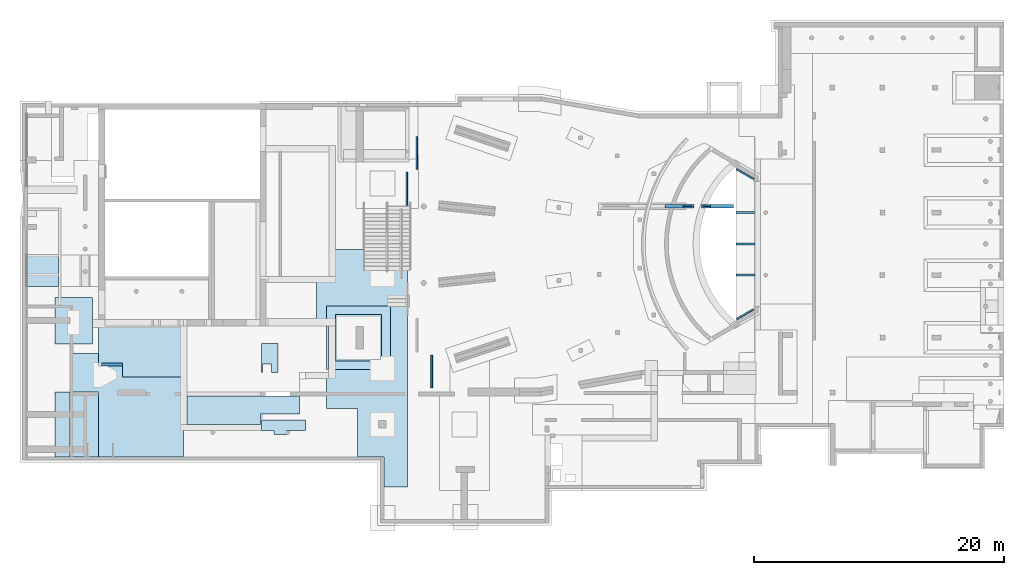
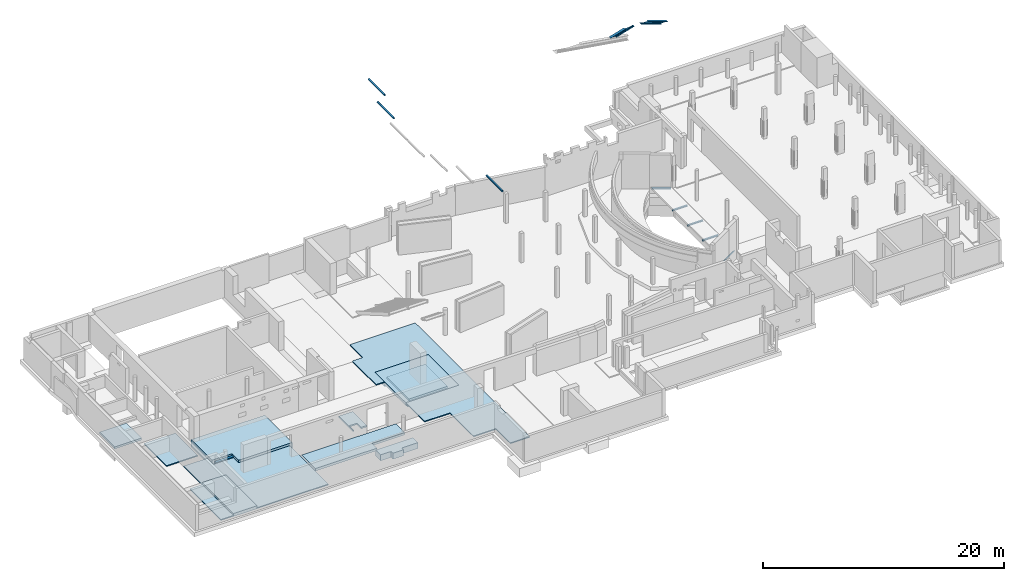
# One storey, part 28 of 42: 14 slabs, 10 beams.
"""IFC2X3 building model written with IfcOpenShell, lengths in millimetres."""

from ifc_helpers import new_model, entity, si_unit, converted_unit, derived_unit, direction, frame, frame_2d, origin, origin_2d_with_axis, place, context, subcontext, project, spatial, polyline, circle_curve, parameter, trimmed, segment, composite_curve, rectangle, i_section, outline, extrude, clip, halfspace, material, layer, layer_set, layer_usage, type_object, element, save


model = new_model("IFC2X3")

# Units and contexts
model_context = context("Model", 3, precision=0.01, world=origin(), true_north=direction((6.12303176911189e-17, 1.0)))
body_context = subcontext(model_context, "Body", "Model", "MODEL_VIEW")
ifc_project = project(units=[si_unit("LENGTHUNIT", "METRE", prefix="MILLI"), si_unit("AREAUNIT", "SQUARE_METRE", prefix="MILLI"), si_unit("VOLUMEUNIT", "CUBIC_METRE"), converted_unit("PLANEANGLEUNIT", "DEGREE", entity("IfcRatioMeasure", 0.0174532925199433), si_unit("PLANEANGLEUNIT", "RADIAN"), dimensions=[0, 0, 0, 0, 0, 0, 0]), si_unit("MASSUNIT", "GRAM", prefix="KILO"), derived_unit("MASSDENSITYUNIT", [(si_unit("MASSUNIT", "GRAM", prefix="KILO"), 1), (si_unit("LENGTHUNIT", "METRE"), -3)]), derived_unit("MOMENTOFINERTIAUNIT", [(si_unit("LENGTHUNIT", "METRE"), 4)]), si_unit("TIMEUNIT", "SECOND"), si_unit("FREQUENCYUNIT", "HERTZ"), si_unit("THERMODYNAMICTEMPERATUREUNIT", "DEGREE_CELSIUS"), derived_unit("THERMALTRANSMITTANCEUNIT", [(si_unit("MASSUNIT", "GRAM", prefix="KILO"), 1), (si_unit("THERMODYNAMICTEMPERATUREUNIT", "KELVIN"), -1), (si_unit("TIMEUNIT", "SECOND"), -3)]), derived_unit("VOLUMETRICFLOWRATEUNIT", [(si_unit("LENGTHUNIT", "METRE"), 3), (si_unit("TIMEUNIT", "SECOND"), -1)]), si_unit("ELECTRICCURRENTUNIT", "AMPERE"), si_unit("ELECTRICVOLTAGEUNIT", "VOLT"), si_unit("POWERUNIT", "WATT"), si_unit("FORCEUNIT", "NEWTON", prefix="KILO"), si_unit("ILLUMINANCEUNIT", "LUX"), si_unit("LUMINOUSFLUXUNIT", "LUMEN"), si_unit("LUMINOUSINTENSITYUNIT", "CANDELA"), derived_unit("USERDEFINED", [(si_unit("MASSUNIT", "GRAM", prefix="KILO"), -1), (si_unit("LENGTHUNIT", "METRE"), -2), (si_unit("TIMEUNIT", "SECOND"), 3), (si_unit("LUMINOUSFLUXUNIT", "LUMEN"), 1)]), derived_unit("LINEARVELOCITYUNIT", [(si_unit("LENGTHUNIT", "METRE"), 1), (si_unit("TIMEUNIT", "SECOND"), -1)]), si_unit("PRESSUREUNIT", "PASCAL"), derived_unit("USERDEFINED", [(si_unit("LENGTHUNIT", "METRE"), -2), (si_unit("MASSUNIT", "GRAM", prefix="KILO"), 1), (si_unit("TIMEUNIT", "SECOND"), -2)]), derived_unit("LINEARFORCEUNIT", [(si_unit("MASSUNIT", "GRAM", prefix="KILO"), 1), (si_unit("LENGTHUNIT", "METRE"), 1), (si_unit("TIMEUNIT", "SECOND"), -2), (si_unit("LENGTHUNIT", "METRE"), -1)]), derived_unit("PLANARFORCEUNIT", [(si_unit("MASSUNIT", "GRAM", prefix="KILO"), 1), (si_unit("LENGTHUNIT", "METRE"), 1), (si_unit("TIMEUNIT", "SECOND"), -2), (si_unit("LENGTHUNIT", "METRE"), -2)])], contexts=[model_context])

# Site, building, storey
site_placement = place(None, origin())
site = spatial("IfcSite", under=ifc_project, at=site_placement, Name="Theater aan de Parade", CompositionType="ELEMENT")
building_placement = place(site_placement, origin())
building = spatial("IfcBuilding", under=site, at=building_placement, Name="Theater aan de Parade", CompositionType="ELEMENT")
storey_placement = place(building_placement, frame((0.0, 0.0, -3300.0)))
storey = spatial("IfcBuildingStorey", under=building, at=storey_placement, Name="-1 kelder", CompositionType="ELEMENT", Elevation=-3300.0)

# Beams
ifc_material_1 = material(Name="00_PBT_MAT_staal_S355")
beam_type_1 = type_object("IfcBeamType", Name="28_PBT_SF_staal_H-profiel:S355_HE140A", PredefinedType="NOTDEFINED")
beam_1_placement = place(storey_placement, frame((67250.0, 34970.0, 0.0)))
element("IfcBeam", 1, at=beam_1_placement, inside=storey, type_object=beam_type_1, material=ifc_material_1, Name="28_PBT_SF_staal_H-profiel:S355_HE140A", ObjectType="28_PBT_SF_staal_H-profiel:S355_HE140A", context=body_context, shape_type="SweptSolid", body=[
    extrude(i_section(OverallWidth=140.000000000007, OverallDepth=133.0, WebThickness=5.4999999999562, FlangeThickness=8.49999999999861, FilletRadius=12.000000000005, at=frame_2d((-8.10018718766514e-13, -6.49436060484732e-12), x_axis=(0.0, 1.0))), frame((0.0, 0.0, 443.499999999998), z_axis=(1.0, 0.0, 0.0), x_axis=(0.0, 0.0, -1.0)), (0.0, 0.0, 1.0), 1470.0000000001),
])
beam_2_placement = place(storey_placement, frame((67250.0, 32453.0, 0.0)))
element("IfcBeam", 2, at=beam_2_placement, inside=storey, type_object=beam_type_1, material=ifc_material_1, Name="28_PBT_SF_staal_H-profiel:S355_HE140A", ObjectType="28_PBT_SF_staal_H-profiel:S355_HE140A", context=body_context, shape_type="SweptSolid", body=[
    extrude(i_section(OverallWidth=140.000000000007, OverallDepth=133.0, WebThickness=5.4999999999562, FlangeThickness=8.49999999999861, FilletRadius=12.000000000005, at=frame_2d((-2.70006239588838e-13, -2.16715534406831e-12), x_axis=(0.0, 1.0))), frame((0.0, 0.0, 443.499999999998), z_axis=(1.0, 0.0, 0.0), x_axis=(0.0, 0.0, -1.0)), (0.0, 0.0, 1.0), 1510.00000000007),
])
beam_3_placement = place(storey_placement, frame((67250.0, 29970.0, 0.0)))
element("IfcBeam", 3, at=beam_3_placement, inside=storey, type_object=beam_type_1, material=ifc_material_1, Name="28_PBT_SF_staal_H-profiel:S355_HE140A", ObjectType="28_PBT_SF_staal_H-profiel:S355_HE140A", context=body_context, shape_type="SweptSolid", body=[
    extrude(i_section(OverallWidth=140.000000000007, OverallDepth=133.0, WebThickness=5.4999999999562, FlangeThickness=8.49999999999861, FilletRadius=12.000000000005, at=frame_2d((-2.70006239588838e-13, 6.49436060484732e-12), x_axis=(0.0, 1.0))), frame((0.0, 0.0, 443.499999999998), z_axis=(1.0, 0.0, 0.0), x_axis=(0.0, 0.0, -1.0)), (0.0, 0.0, 1.0), 1510.00000000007),
])
beam_type_2 = type_object("IfcBeamType", Name="28_PBT_SF_staal_L-profiel:S355_L150x150x15", PredefinedType="NOTDEFINED")
beam_4_placement = place(storey_placement, frame((67305.6569568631, 38476.8504600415, 0.0), z_axis=(0.0, 0.0, 1.0), x_axis=(0.866064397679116, -0.499932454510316, 0.0)))
element("IfcBeam", 4, at=beam_4_placement, inside=storey, type_object=beam_type_2, material=ifc_material_1, Name="28_PBT_SF_staal_L-profiel:S355_L150x150x15", ObjectType="28_PBT_SF_staal_L-profiel:S355_L150x150x15", context=body_context, shape_type="SweptSolid", body=[
    extrude(outline(composite_curve([segment(polyline([(49.6666666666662, -93.3333333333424), (56.6666666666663, -93.3333333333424)]), True, "CONTINUOUS"), segment(polyline([(56.6666666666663, -93.3333333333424), (56.6666666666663, 56.6666666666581)]), True, "CONTINUOUS"), segment(polyline([(56.6666666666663, 56.6666666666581), (-93.3333333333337, 56.6666666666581)]), True, "CONTINUOUS"), segment(polyline([(-93.3333333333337, 56.6666666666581), (-93.3333333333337, 49.6666666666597)]), True, "CONTINUOUS"), segment(trimmed(circle_curve(frame_2d((-85.3333333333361, 49.6666666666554), x_axis=(-1.0, 0.0)), 7.99999999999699), [parameter(0.0)], [parameter(90.0000000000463)], True, "PARAMETER"), True, "CONTINUOUS"), segment(polyline([(-85.3333333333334, 41.6666666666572), (25.6666666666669, 41.6666666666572)]), True, "CONTINUOUS"), segment(trimmed(circle_curve(frame_2d((25.6666666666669, 25.6666666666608), x_axis=(0.0, 1.0)), 15.9999999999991), [parameter(269.999999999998)], [parameter(0.0)], True, "PARAMETER"), False, "CONTINUOUS"), segment(polyline([(41.6666666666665, 25.6666666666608), (41.6666666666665, -85.3333333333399)]), True, "CONTINUOUS"), segment(trimmed(circle_curve(frame_2d((49.666666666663, -85.3333333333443), x_axis=(-1.0, 0.0)), 7.99999999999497), [parameter(0.0)], [parameter(90.0000000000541)], True, "PARAMETER"), True, "CONTINUOUS")], self_intersect=False)), frame((0.0, -14.1666666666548, 551.666666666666), z_axis=(1.0, 0.0, 0.0), x_axis=(0.0, 0.0, -1.0)), (0.0, 0.0, 1.0), 1600.0),
])
beam_5_placement = place(storey_placement, frame((67305.6563718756, 26413.1492022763, 0.0), z_axis=(0.0, 0.0, 1.0), x_axis=(0.866064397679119, 0.499932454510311, 0.0)))
element("IfcBeam", 5, at=beam_5_placement, inside=storey, type_object=beam_type_2, material=ifc_material_1, Name="28_PBT_SF_staal_L-profiel:S355_L150x150x15", ObjectType="28_PBT_SF_staal_L-profiel:S355_L150x150x15", context=body_context, shape_type="SweptSolid", body=[
    extrude(outline(composite_curve([segment(polyline([(-93.3333333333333, -56.6666666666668), (56.6666666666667, -56.6666666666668)]), True, "CONTINUOUS"), segment(polyline([(56.6666666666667, -56.6666666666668), (56.6666666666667, 93.3333333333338)]), True, "CONTINUOUS"), segment(polyline([(56.6666666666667, 93.3333333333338), (49.6666666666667, 93.3333333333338)]), True, "CONTINUOUS"), segment(trimmed(circle_curve(frame_2d((49.6666666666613, 85.3333333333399), x_axis=(0.0, 1.0)), 7.99999999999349), [parameter(0.0)], [parameter(90.0000000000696)], True, "PARAMETER"), True, "CONTINUOUS"), segment(polyline([(41.6666666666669, 85.3333333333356), (41.6666666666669, -25.6666666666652)]), True, "CONTINUOUS"), segment(trimmed(circle_curve(frame_2d((25.6666666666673, -25.6666666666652), x_axis=(1.0, 0.0)), 15.9999999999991), [parameter(269.999999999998)], [parameter(0.0)], True, "PARAMETER"), False, "CONTINUOUS"), segment(polyline([(25.6666666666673, -41.6666666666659), (-85.3333333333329, -41.6666666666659)]), True, "CONTINUOUS"), segment(trimmed(circle_curve(frame_2d((-85.3333333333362, -49.6666666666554), x_axis=(0.0, 1.0)), 7.99999999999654), [parameter(0.0)], [parameter(90.0000000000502)], True, "PARAMETER"), True, "CONTINUOUS"), segment(polyline([(-93.3333333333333, -49.6666666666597), (-93.3333333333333, -56.6666666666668)]), True, "CONTINUOUS")], self_intersect=False)), frame((0.0, 14.1666666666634, 551.666666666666), z_axis=(1.0, 0.0, 0.0), x_axis=(0.0, 0.0, -1.0)), (0.0, 0.0, 1.0), 1605.0),
])
beam_type_3 = type_object("IfcBeamType", Name="28_PBT_SF_staal_H-profiel:S355_HE260B", PredefinedType="NOTDEFINED")
beam_6_placement = place(storey_placement, frame((61504.062976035, 35472.499995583, 19459.7455469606), z_axis=(-0.280842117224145, 0.0, 0.959753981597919), x_axis=(0.959753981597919, 0.0, 0.280842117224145)))
element("IfcBeam", 6, at=beam_6_placement, inside=storey, type_object=beam_type_3, material=ifc_material_1, Name="28_PBT_SF_staal_H-profiel:S355_HE260B", ObjectType="28_PBT_SF_staal_H-profiel:S355_HE260B", context=body_context, shape_type="Clipping", body=[
    clip(clip(extrude(i_section(OverallWidth=260.000000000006, OverallDepth=259.999999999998, WebThickness=10.0000000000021, FlangeThickness=17.499999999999, FilletRadius=23.9999999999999, at=frame_2d((-2.07478478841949e-12, -6.49436060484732e-12), x_axis=(0.0, 1.0))), frame((99.8063754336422, 0.0, 0.0), z_axis=(1.0, 0.0, 0.0), x_axis=(0.0, 0.0, -1.0)), (0.0, 0.0, 1.0), 2339.36648588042), halfspace(frame((-4713.81573917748, -170.0, 2406.46514513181), z_axis=(-0.427523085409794, 0.0, -0.90400443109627), x_axis=(0.90400443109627, 0.0, -0.427523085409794)), False)), halfspace(frame((-4862.8308060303, 170.0, 2006.70399835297), z_axis=(0.280842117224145, 0.0, 0.959753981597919), x_axis=(0.959753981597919, 0.0, -0.280842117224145)), False)),
])
beam_7_placement = place(storey_placement, frame((64328.2377806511, 35472.499995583, 20213.715076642), z_axis=(0.332948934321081, 0.0, 0.942944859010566), x_axis=(0.942944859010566, 0.0, -0.332948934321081)))
element("IfcBeam", 7, at=beam_7_placement, inside=storey, type_object=beam_type_3, material=ifc_material_1, Name="28_PBT_SF_staal_H-profiel:S355_HE260B", ObjectType="28_PBT_SF_staal_H-profiel:S355_HE260B", context=body_context, shape_type="Clipping", body=[
    clip(clip(clip(extrude(i_section(OverallWidth=260.000000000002, OverallDepth=259.999999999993, WebThickness=10.0000000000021, FlangeThickness=17.5000000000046, FilletRadius=24.0000000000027, at=frame_2d((-1.02318153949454e-12, 1.51629819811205e-11), x_axis=(0.0, 1.0))), frame((213.64310751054, 0.0, 0.0), z_axis=(1.0, 0.0, 0.0), x_axis=(0.0, 0.0, -1.0)), (0.0, 0.0, 1.0), 2644.91552228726), halfspace(frame((-427.447160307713, -170.0, -1077.51067672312), z_axis=(0.332948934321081, 0.0, -0.942944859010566), x_axis=(0.942944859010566, 0.0, 0.332948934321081)), False)), halfspace(frame((2871.87658717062, -150.0, 45.0431137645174), z_axis=(0.942944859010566, 0.0, 0.332948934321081), x_axis=(-0.332948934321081, 0.0, 0.942944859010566)), False)), halfspace(frame((-7530.7944578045, 170.0, -2864.52069826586), z_axis=(-0.332948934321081, 0.0, 0.942944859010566), x_axis=(0.942944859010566, 0.0, 0.332948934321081)), False)),
])
beam_type_4 = type_object("IfcBeamType", Name="28_PBT_SF_staal_koker:S355_K200x200x10", PredefinedType="NOTDEFINED")
beam_8_placement = place(storey_placement, frame((42810.3707616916, 23578.9366326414, 19698.01665294), z_axis=(0.0, 0.0, 1.0), x_axis=(0.0, -1.0, 0.0)))
element("IfcBeam", 8, at=beam_8_placement, inside=storey, type_object=beam_type_4, material=ifc_material_1, Name="28_PBT_SF_staal_koker:S355_K200x200x10", ObjectType="28_PBT_SF_staal_koker:S355_K200x200x10", context=body_context, shape_type="SweptSolid", body=[
    extrude(outline(composite_curve([segment(polyline([(-60.0, -75.0), (60.0, -75.0)]), True, "CONTINUOUS"), segment(trimmed(circle_curve(frame_2d((60.0, -60.0), x_axis=(0.0, 1.0)), 15.0), [parameter(180.0)], [parameter(270.0)], True, "PARAMETER"), True, "CONTINUOUS"), segment(polyline([(75.0, -60.0), (75.0, 60.0)]), True, "CONTINUOUS"), segment(trimmed(circle_curve(frame_2d((60.0, 60.0), x_axis=(0.0, 1.0)), 15.0), [parameter(270.0)], [parameter(360.0)], True, "PARAMETER"), True, "CONTINUOUS"), segment(polyline([(60.0, 75.0), (-60.0, 75.0)]), True, "CONTINUOUS"), segment(trimmed(circle_curve(frame_2d((-60.0, 60.0), x_axis=(0.0, 1.0)), 15.0), [parameter(0.0)], [parameter(90.0000000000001)], True, "PARAMETER"), True, "CONTINUOUS"), segment(polyline([(-75.0, 60.0), (-75.0, -60.0)]), True, "CONTINUOUS"), segment(trimmed(circle_curve(frame_2d((-60.0, -60.0), x_axis=(0.0, 1.0)), 15.0), [parameter(90.0)], [parameter(180.0)], True, "PARAMETER"), True, "CONTINUOUS")], self_intersect=False), holes=[composite_curve([segment(polyline([(65.0, 55.0), (65.0, -55.0)]), True, "CONTINUOUS"), segment(trimmed(circle_curve(frame_2d((55.0, -55.0), x_axis=(0.0, 1.0)), 10.0), [parameter(180.0)], [parameter(270.0)], True, "PARAMETER"), False, "CONTINUOUS"), segment(polyline([(55.0, -65.0), (-55.0, -65.0)]), True, "CONTINUOUS"), segment(trimmed(circle_curve(frame_2d((-55.0, -55.0), x_axis=(0.0, 1.0)), 10.0), [parameter(90.0)], [parameter(180.0)], True, "PARAMETER"), False, "CONTINUOUS"), segment(polyline([(-65.0, -55.0), (-65.0, 55.0)]), True, "CONTINUOUS"), segment(trimmed(circle_curve(frame_2d((-55.0, 55.0), x_axis=(0.0, 1.0)), 10.0), [parameter(4.07110999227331e-13)], [parameter(90.0000000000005)], True, "PARAMETER"), False, "CONTINUOUS"), segment(polyline([(-55.0, 65.0), (55.0, 65.0)]), True, "CONTINUOUS"), segment(trimmed(circle_curve(frame_2d((55.0, 55.0), x_axis=(0.0, 1.0)), 10.0), [parameter(270.0)], [parameter(0.0)], True, "PARAMETER"), False, "CONTINUOUS")], self_intersect=False)]), frame((0.0, 108.975369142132, -279.50736827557), z_axis=(1.0, 0.0, 0.0), x_axis=(0.0, -0.363251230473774, 0.931691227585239)), (0.0, 0.0, 1.0), 2648.93663264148),
])
beam_9_placement = place(storey_placement, frame((40830.526903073, 35519.5120085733, 18926.1077881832), z_axis=(0.0, 0.0, 1.0), x_axis=(0.0, 1.0, 0.0)))
element("IfcBeam", 9, at=beam_9_placement, inside=storey, type_object=beam_type_4, material=ifc_material_1, Name="28_PBT_SF_staal_koker:S355_K200x200x10", ObjectType="28_PBT_SF_staal_koker:S355_K200x200x10", context=body_context, shape_type="SweptSolid", body=[
    extrude(outline(composite_curve([segment(trimmed(circle_curve(frame_2d((-60.0, -60.0), x_axis=(1.0, 0.0)), 15.0), [parameter(180.0)], [parameter(270.0)], True, "PARAMETER"), True, "CONTINUOUS"), segment(polyline([(-60.0, -75.0), (60.0, -75.0)]), True, "CONTINUOUS"), segment(trimmed(circle_curve(frame_2d((60.0, -60.0), x_axis=(1.0, 0.0)), 15.0), [parameter(270.0)], [parameter(0.0)], True, "PARAMETER"), True, "CONTINUOUS"), segment(polyline([(75.0, -60.0), (75.0, 60.0)]), True, "CONTINUOUS"), segment(trimmed(circle_curve(frame_2d((60.0, 60.0), x_axis=(1.0, 0.0)), 15.0), [parameter(3.56222124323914e-13)], [parameter(90.0000000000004)], True, "PARAMETER"), True, "CONTINUOUS"), segment(polyline([(60.0, 75.0), (-60.0, 75.0)]), True, "CONTINUOUS"), segment(trimmed(circle_curve(frame_2d((-60.0, 60.0), x_axis=(1.0, 0.0)), 15.0), [parameter(90.0)], [parameter(180.0)], True, "PARAMETER"), True, "CONTINUOUS"), segment(polyline([(-75.0, 60.0), (-75.0, -60.0)]), True, "CONTINUOUS")], self_intersect=False), holes=[composite_curve([segment(trimmed(circle_curve(frame_2d((55.0, 55.0), x_axis=(1.0, 0.0)), 10.0), [parameter(0.0)], [parameter(90.0000000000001)], True, "PARAMETER"), False, "CONTINUOUS"), segment(polyline([(65.0, 55.0), (65.0, -55.0)]), True, "CONTINUOUS"), segment(trimmed(circle_curve(frame_2d((55.0, -55.0), x_axis=(1.0, 0.0)), 10.0), [parameter(269.999999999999)], [parameter(360.0)], True, "PARAMETER"), False, "CONTINUOUS"), segment(polyline([(55.0, -65.0), (-55.0, -65.0)]), True, "CONTINUOUS"), segment(trimmed(circle_curve(frame_2d((-55.0, -55.0), x_axis=(1.0, 0.0)), 10.0), [parameter(180.0)], [parameter(270.0)], True, "PARAMETER"), False, "CONTINUOUS"), segment(polyline([(-65.0, -55.0), (-65.0, 55.0)]), True, "CONTINUOUS"), segment(trimmed(circle_curve(frame_2d((-55.0, 55.0), x_axis=(1.0, 0.0)), 10.0), [parameter(89.9999999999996)], [parameter(180.0)], True, "PARAMETER"), False, "CONTINUOUS"), segment(polyline([(-55.0, 65.0), (55.0, 65.0)]), True, "CONTINUOUS")], self_intersect=False)]), frame((0.0, -108.975369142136, -279.507368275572), z_axis=(1.0, 0.0, 0.0), x_axis=(0.0, 0.931691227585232, -0.363251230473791)), (0.0, 0.0, 1.0), 2706.24999999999),
])
beam_10_placement = place(storey_placement, frame((41631.7813587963, 38405.7620085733, 19238.5038463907), z_axis=(0.0, 0.0, 1.0), x_axis=(0.0, 1.0, 0.0)))
element("IfcBeam", 10, at=beam_10_placement, inside=storey, type_object=beam_type_4, material=ifc_material_1, Name="28_PBT_SF_staal_koker:S355_K200x200x10", ObjectType="28_PBT_SF_staal_koker:S355_K200x200x10", context=body_context, shape_type="SweptSolid", body=[
    extrude(outline(composite_curve([segment(trimmed(circle_curve(frame_2d((-60.0, -60.0), x_axis=(1.0, 0.0)), 15.0), [parameter(180.0)], [parameter(270.0)], True, "PARAMETER"), True, "CONTINUOUS"), segment(polyline([(-60.0, -75.0), (60.0, -75.0)]), True, "CONTINUOUS"), segment(trimmed(circle_curve(frame_2d((60.0, -60.0), x_axis=(1.0, 0.0)), 15.0), [parameter(270.0)], [parameter(0.0)], True, "PARAMETER"), True, "CONTINUOUS"), segment(polyline([(75.0, -60.0), (75.0, 60.0)]), True, "CONTINUOUS"), segment(trimmed(circle_curve(frame_2d((60.0, 60.0), x_axis=(1.0, 0.0)), 15.0), [parameter(3.56222124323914e-13)], [parameter(90.0000000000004)], True, "PARAMETER"), True, "CONTINUOUS"), segment(polyline([(60.0, 75.0), (-60.0, 75.0)]), True, "CONTINUOUS"), segment(trimmed(circle_curve(frame_2d((-60.0, 60.0), x_axis=(1.0, 0.0)), 15.0), [parameter(90.0)], [parameter(180.0)], True, "PARAMETER"), True, "CONTINUOUS"), segment(polyline([(-75.0, 60.0), (-75.0, -60.0)]), True, "CONTINUOUS")], self_intersect=False), holes=[composite_curve([segment(trimmed(circle_curve(frame_2d((55.0, 55.0), x_axis=(1.0, 0.0)), 10.0), [parameter(0.0)], [parameter(90.0000000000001)], True, "PARAMETER"), False, "CONTINUOUS"), segment(polyline([(65.0, 55.0), (65.0, -55.0)]), True, "CONTINUOUS"), segment(trimmed(circle_curve(frame_2d((55.0, -55.0), x_axis=(1.0, 0.0)), 10.0), [parameter(269.999999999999)], [parameter(360.0)], True, "PARAMETER"), False, "CONTINUOUS"), segment(polyline([(55.0, -65.0), (-55.0, -65.0)]), True, "CONTINUOUS"), segment(trimmed(circle_curve(frame_2d((-55.0, -55.0), x_axis=(1.0, 0.0)), 10.0), [parameter(180.0)], [parameter(270.0)], True, "PARAMETER"), False, "CONTINUOUS"), segment(polyline([(-65.0, -55.0), (-65.0, 55.0)]), True, "CONTINUOUS"), segment(trimmed(circle_curve(frame_2d((-55.0, 55.0), x_axis=(1.0, 0.0)), 10.0), [parameter(89.9999999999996)], [parameter(180.0)], True, "PARAMETER"), False, "CONTINUOUS"), segment(polyline([(-55.0, 65.0), (55.0, 65.0)]), True, "CONTINUOUS")], self_intersect=False)]), frame((0.0, -108.975369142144, -279.50736827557), z_axis=(1.0, 0.0, 0.0), x_axis=(0.0, 0.931691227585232, -0.363251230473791)), (0.0, 0.0, 1.0), 2662.80135878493),
])

# Slabs
ifc_material_2 = material(Name="00_PBT_MAT_beton t.p.g.")
ifc_layer_1 = layer(ifc_material_2, 1000.0)
ifc_layer_set_1 = layer_set([ifc_layer_1], Name="Foundation Slab:13_PBT_FS_beton t.p.g._d=1000_bestaand")
ifc_layer_usage_1 = layer_usage(ifc_layer_set_1, "AXIS3", "POSITIVE", 0.0)
slab_type_1 = type_object("IfcSlabType", Name="Foundation Slab:13_PBT_FS_beton t.p.g._d=1000_bestaand", PredefinedType="BASESLAB", material=ifc_layer_set_1)
slab_1_placement = place(storey_placement, origin())
element("IfcSlab", 11, at=slab_1_placement, inside=storey, type_object=slab_type_1, material=ifc_layer_usage_1, Name="Foundation Slab:13_PBT_FS_beton t.p.g._d=1000_bestaand", ObjectType="Foundation Slab:13_PBT_FS_beton t.p.g._d=1000_bestaand", PredefinedType="BASESLAB", context=body_context, shape_type="SweptSolid", body=[
    extrude(outline(polyline([(-187.499999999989, -2229.0), (637.499999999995, -2229.0), (637.499999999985, 1266.0), (637.499999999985, 1321.0), (-187.499999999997, 1321.0), (-187.499999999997, 1266.0), (-187.499999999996, 321.0), (-487.499999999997, 321.0), (-487.499999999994, -679.0), (-187.499999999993, -679.0), (-187.499999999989, -2229.0)])), frame((30611.0, 17727.4999999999, -1040.0), z_axis=(0.0, 0.0, 1.0), x_axis=(0.0, 1.0, 0.0)), (0.0, 0.0, 1.0), 600.0),
])
ifc_layer_2 = layer(ifc_material_2, 150.0)
ifc_layer_set_2 = layer_set([ifc_layer_2], Name="Floor:28_PBT_FL_beton t.p.g._d=150_bestaand")
ifc_layer_usage_2 = layer_usage(ifc_layer_set_2, "AXIS3", "POSITIVE", 0.0)
slab_type_2 = type_object("IfcSlabType", Name="Floor:28_PBT_FL_beton t.p.g._d=150_bestaand", PredefinedType="FLOOR", material=ifc_layer_set_2)
slab_2_placement = place(storey_placement, origin())
element("IfcSlab", 12, at=slab_2_placement, inside=storey, type_object=slab_type_2, material=ifc_layer_usage_2, Name="Floor:28_PBT_FL_beton t.p.g._d=150_bestaand", ObjectType="Floor:28_PBT_FL_beton t.p.g._d=150_bestaand", PredefinedType="FLOOR", context=body_context, shape_type="SweptSolid", body=[
    extrude(outline(polyline([(-758.750000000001, -562.500000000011), (1576.25, -562.500000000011), (1576.25, 787.499999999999), (-758.750000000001, 787.499999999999), (-758.750000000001, 237.499999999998), (-58.7499999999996, 237.499999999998), (-58.7499999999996, -462.500000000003), (-758.750000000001, -462.500000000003), (-758.750000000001, -562.500000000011)])), frame((29852.5, 22923.7499999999, -740.0), z_axis=(0.0, 0.0, -1.0), x_axis=(0.0, 1.0, 0.0)), (0.0, 0.0, 1.0), 150.0),
])
ifc_layer_3 = layer(ifc_material_2, 740.0)
ifc_layer_set_3 = layer_set([ifc_layer_3], Name="Foundation Slab:13_PBT_FS_beton t.p.g._d=740_bestaand")
ifc_layer_usage_3 = layer_usage(ifc_layer_set_3, "AXIS3", "POSITIVE", 0.0)
slab_type_3 = type_object("IfcSlabType", Name="Foundation Slab:13_PBT_FS_beton t.p.g._d=740_bestaand", PredefinedType="BASESLAB", material=ifc_layer_set_3)
slab_3_placement = place(storey_placement, origin())
element("IfcSlab", 13, at=slab_3_placement, inside=storey, type_object=slab_type_3, material=ifc_layer_usage_3, Name="Foundation Slab:13_PBT_FS_beton t.p.g._d=740_bestaand", ObjectType="Foundation Slab:13_PBT_FS_beton t.p.g._d=740_bestaand", PredefinedType="BASESLAB", context=body_context, shape_type="SweptSolid", body=[
    extrude(outline(polyline([(-790.0, -2985.0), (2680.0, -2985.0), (2680.0, 4065.0), (-1890.0, 4065.0), (-1890.0, -1080.0), (-790.0, -1080.0), (-790.0, -2985.0)])), frame((19260.0, 23730.0, 300.0), z_axis=(0.0, 0.0, -1.0), x_axis=(0.0, 1.0, 0.0)), (0.0, 0.0, 1.0), 740.0),
])
ifc_layer_4 = layer(ifc_material_2, 570.0)
ifc_layer_set_4 = layer_set([ifc_layer_4], Name="Foundation Slab:13_PBT_FS_beton t.p.g._d=570_bestaand")
ifc_layer_usage_4 = layer_usage(ifc_layer_set_4, "AXIS3", "POSITIVE", 0.0)
slab_type_4 = type_object("IfcSlabType", Name="Foundation Slab:13_PBT_FS_beton t.p.g._d=570_bestaand", PredefinedType="BASESLAB", material=ifc_layer_set_4)
slab_4_placement = place(storey_placement, origin())
element("IfcSlab", 14, at=slab_4_placement, inside=storey, type_object=slab_type_4, material=ifc_layer_usage_4, Name="Foundation Slab:13_PBT_FS_beton t.p.g._d=570_bestaand", ObjectType="Foundation Slab:13_PBT_FS_beton t.p.g._d=570_bestaand", PredefinedType="BASESLAB", context=body_context, shape_type="SweptSolid", body=[
    extrude(rectangle(XDim=250.000000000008, YDim=1655.00000000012, at=frame_2d((2.16715534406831e-12, 0.0), x_axis=(1.0, 0.0))), frame((17352.5, 22815.0, 130.0), z_axis=(0.0, 0.0, -1.0), x_axis=(0.0, 1.0, 0.0)), (0.0, 0.0, 1.0), 570.0),
])
ifc_material_3 = material(Name="00_PBT_MAT_beton t.p.g._C30/37")
ifc_layer_5 = layer(ifc_material_3, 250.0)
ifc_layer_set_5 = layer_set([ifc_layer_5], Name="Floor:28_PBT_FL_beton t.p.g._d=250_C30/37_uitvulling n.t.b.")
ifc_layer_usage_5 = layer_usage(ifc_layer_set_5, "AXIS3", "POSITIVE", 0.0)
slab_type_5 = type_object("IfcSlabType", Name="Floor:28_PBT_FL_beton t.p.g._d=250_C30/37_uitvulling n.t.b.", PredefinedType="FLOOR", material=ifc_layer_set_5)
slab_5_placement = place(storey_placement, origin())
element("IfcSlab", 15, at=slab_5_placement, inside=storey, type_object=slab_type_5, material=ifc_layer_usage_5, Name="Floor:28_PBT_FL_beton t.p.g._d=250_C30/37_uitvulling n.t.b.", ObjectType="Floor:28_PBT_FL_beton t.p.g._d=250_C30/37_uitvulling n.t.b.", PredefinedType="FLOOR", context=body_context, shape_type="SweptSolid", body=[
    extrude(outline(polyline([(-1032.12248433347, -4976.66666666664), (1239.24496866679, -4976.66666666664), (1239.24496866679, 4038.33333333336), (-207.122484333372, 4038.33333333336), (-207.122484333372, 938.333333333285), (-1032.12248433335, 938.333333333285), (-1032.12248433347, -4976.66666666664)])), frame((28301.6666666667, 19072.1224843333, -40.0), z_axis=(0.0, 0.0, -1.0), x_axis=(0.0, 1.0, 0.0)), (0.0, 0.0, 1.0), 250.0),
])
ifc_layer_6 = layer(ifc_material_3, 200.0)
ifc_layer_set_6 = layer_set([ifc_layer_6], Name="Floor:28_PBT_FL_beton t.p.g._d=200_C30/37_uitvulling n.t.b.")
ifc_layer_usage_6 = layer_usage(ifc_layer_set_6, "AXIS3", "POSITIVE", 0.0)
slab_type_6 = type_object("IfcSlabType", Name="Floor:28_PBT_FL_beton t.p.g._d=200_C30/37_uitvulling n.t.b.", PredefinedType="FLOOR", material=ifc_layer_set_6)
slab_6_placement = place(storey_placement, origin())
element("IfcSlab", 16, at=slab_6_placement, inside=storey, type_object=slab_type_6, material=ifc_layer_usage_6, Name="Floor:28_PBT_FL_beton t.p.g._d=200_C30/37_uitvulling n.t.b.", ObjectType="Floor:28_PBT_FL_beton t.p.g._d=200_C30/37_uitvulling n.t.b.", PredefinedType="FLOOR", context=body_context, shape_type="SweptSolid", body=[
    extrude(rectangle(XDim=2499.99999999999, YDim=2575.00000000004, at=frame_2d((0.0, 1.13686837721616e-12), x_axis=(1.0, 0.0))), frame((11777.5000000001, 30315.0, -40.0), z_axis=(0.0, 0.0, -1.0), x_axis=(0.0, 1.0, 0.0)), (0.0, 0.0, 1.0), 200.0),
])
ifc_layer_7 = layer(ifc_material_3, 200.0)
ifc_layer_set_7 = layer_set([ifc_layer_7], Name="Foundation Slab:13_PBT_FS_beton t.p.g._d=200_C30/37")
ifc_layer_usage_7 = layer_usage(ifc_layer_set_7, "AXIS3", "POSITIVE", 0.0)
slab_type_7 = type_object("IfcSlabType", Name="Foundation Slab:13_PBT_FS_beton t.p.g._d=200_C30/37", PredefinedType="BASESLAB", material=ifc_layer_set_7)
slab_7_placement = place(storey_placement, origin())
element("IfcSlab", 17, at=slab_7_placement, inside=storey, type_object=slab_type_7, material=ifc_layer_usage_7, Name="Foundation Slab:13_PBT_FS_beton t.p.g._d=200_C30/37", ObjectType="Foundation Slab:13_PBT_FS_beton t.p.g._d=200_C30/37", PredefinedType="BASESLAB", context=body_context, shape_type="SweptSolid", body=[
    extrude(rectangle(XDim=3699.99999999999, YDim=3698.85813008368, at=frame_2d((-2.1600499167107e-12, 2.1600499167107e-12), x_axis=(1.0, 0.0))), frame((37054.4290650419, 24962.3674033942, -240.0), z_axis=(0.0, 0.0, -1.0), x_axis=(0.0, 1.0, 0.0)), (0.0, 0.0, 1.0), 200.0),
])
ifc_layer_8 = layer(ifc_material_3, 300.0)
ifc_layer_set_8 = layer_set([ifc_layer_8], Name="Foundation Slab:13_PBT_FS_beton t.p.g._d=300_C30/37")
ifc_layer_usage_8 = layer_usage(ifc_layer_set_8, "AXIS3", "POSITIVE", 0.0)
slab_type_8 = type_object("IfcSlabType", Name="Foundation Slab:13_PBT_FS_beton t.p.g._d=300_C30/37", PredefinedType="BASESLAB", material=ifc_layer_set_8)
slab_8_placement = place(storey_placement, origin())
element("IfcSlab", 18, at=slab_8_placement, inside=storey, type_object=slab_type_8, material=ifc_layer_usage_8, Name="Foundation Slab:13_PBT_FS_beton t.p.g._d=300_C30/37", ObjectType="Foundation Slab:13_PBT_FS_beton t.p.g._d=300_C30/37", PredefinedType="BASESLAB", context=body_context, shape_type="SweptSolid", body=[
    extrude(rectangle(XDim=5100.00000000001, YDim=5099.99999999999, at=frame_2d((0.0, -4.32009983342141e-12), x_axis=(1.0, 0.0))), frame((37055.0, 24962.3674033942, 60.0), z_axis=(0.0, 0.0, -1.0), x_axis=(0.0, 1.0, 0.0)), (0.0, 0.0, 1.0), 300.0),
])
ifc_layer_9 = layer(ifc_material_2, 200.0)
ifc_layer_set_9 = layer_set([ifc_layer_9], Name="Foundation Slab:13_PBT_FS_beton t.p.g._d=200_bestaand")
ifc_layer_usage_9 = layer_usage(ifc_layer_set_9, "AXIS3", "POSITIVE", 0.0)
slab_type_9 = type_object("IfcSlabType", Name="Foundation Slab:13_PBT_FS_beton t.p.g._d=200_bestaand", PredefinedType="BASESLAB", material=ifc_layer_set_9)
slab_9_placement = place(storey_placement, origin())
element("IfcSlab", 19, at=slab_9_placement, inside=storey, type_object=slab_type_9, material=ifc_layer_usage_9, Name="Foundation Slab:13_PBT_FS_beton t.p.g._d=200_bestaand", ObjectType="Foundation Slab:13_PBT_FS_beton t.p.g._d=200_bestaand", PredefinedType="BASESLAB", context=body_context, shape_type="SweptSolid", body=[
    extrude(outline(polyline([(-631.755064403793, -1583.33333333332), (2865.8775322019, -1583.33333333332), (2865.8775322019, 3341.66666666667), (-2234.12246779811, 3341.66666666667), (-2234.12246779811, -1758.33333333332), (-631.755064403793, -1758.33333333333), (-631.755064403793, -1583.33333333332)]), holes=[polyline([(1788.24493559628, 2641.66666666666), (1788.24493559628, 2640.52479675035), (2165.8775322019, 2640.52479675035), (2165.8775322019, 1701.66666666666), (2165.8775322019, -1058.33333333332), (-631.755064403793, -1058.33333333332), (-1231.7550644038, -1058.33333333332), (-1534.1224677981, -1058.33333333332), (-1534.1224677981, 2640.52479675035), (-1534.1224677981, 2641.66666666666), (1788.24493559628, 2641.66666666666)])]), frame((36263.3333333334, 25278.2449355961, -440.0), z_axis=(0.0, 0.0, 1.0), x_axis=(0.0, -1.0, 0.0)), (0.0, 0.0, 1.0), 200.0),
])
ifc_layer_10 = layer(ifc_material_3, 100.0)
ifc_layer_set_10 = layer_set([ifc_layer_10], Name="Floor:28_PBT_FL_druklaag_d=100_C30/37")
ifc_layer_usage_10 = layer_usage(ifc_layer_set_10, "AXIS3", "POSITIVE", 0.0)
slab_type_10 = type_object("IfcSlabType", Name="Floor:28_PBT_FL_druklaag_d=100_C30/37", PredefinedType="FLOOR", material=ifc_layer_set_10)
slab_10_placement = place(storey_placement, origin())
element("IfcSlab", 20, at=slab_10_placement, inside=storey, type_object=slab_type_10, material=ifc_layer_usage_10, Name="Floor:28_PBT_FL_druklaag_d=100_C30/37", ObjectType="Floor:28_PBT_FL_druklaag_d=100_C30/37", PredefinedType="FLOOR", context=body_context, shape_type="SweptSolid", body=[
    extrude(outline(polyline([(-242.906037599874, -3561.4807507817), (2835.7265094, -3561.4807507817), (2835.72650939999, -1280.59406293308), (1835.72650939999, -1280.59406293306), (1835.72650939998, 624.405937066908), (985.726509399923, 624.405937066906), (985.726509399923, 5519.40593706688), (-5414.27349060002, 5519.40593706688), (-5414.27349060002, -1301.73706041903), (-242.906037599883, -1301.73706041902), (-242.906037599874, -3561.4807507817)])), frame((17555.5940629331, 20854.2734906, 60.0), z_axis=(0.0, 0.0, -1.0), x_axis=(0.0, 1.0, 0.0)), (0.0, 0.0, 1.0), 100.0),
])
ifc_layer_11 = layer(ifc_material_3, 300.0)
ifc_layer_set_11 = layer_set([ifc_layer_11], Name="Floor:28_PBT_FL_druklaag_d=300_C30/37")
ifc_layer_usage_11 = layer_usage(ifc_layer_set_11, "AXIS3", "POSITIVE", 0.0)
slab_type_11 = type_object("IfcSlabType", Name="Floor:28_PBT_FL_druklaag_d=300_C30/37", PredefinedType="FLOOR", material=ifc_layer_set_11)
slab_11_placement = place(storey_placement, origin())
element("IfcSlab", 21, at=slab_11_placement, inside=storey, type_object=slab_type_11, material=ifc_layer_usage_11, Name="Floor:28_PBT_FL_druklaag_d=300_C30/37", ObjectType="Floor:28_PBT_FL_druklaag_d=300_C30/37", PredefinedType="FLOOR", context=body_context, shape_type="SweptSolid", body=[
    extrude(rectangle(XDim=5171.36745300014, YDim=2259.74369036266, at=frame_2d((-2.04636307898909e-12, 3.29691829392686e-12), x_axis=(1.0, 0.0))), frame((15123.9851573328, 18025.6837265, 260.0), z_axis=(0.0, 0.0, -1.0), x_axis=(0.0, 1.0, 0.0)), (0.0, 0.0, 1.0), 300.0),
])
ifc_layer_usage_12 = layer_usage(ifc_layer_set_10, "AXIS3", "POSITIVE", 0.0)
slab_type_12 = type_object("IfcSlabType", Name="Floor:28_PBT_FL_druklaag_d=100_C30/37", PredefinedType="FLOOR", material=ifc_layer_set_10)
slab_12_placement = place(storey_placement, origin())
element("IfcSlab", 22, at=slab_12_placement, inside=storey, type_object=slab_type_12, material=ifc_layer_usage_12, Name="Floor:28_PBT_FL_druklaag_d=100_C30/37", ObjectType="Floor:28_PBT_FL_druklaag_d=100_C30/37", PredefinedType="FLOOR", context=body_context, shape_type="SweptSolid", body=[
    extrude(rectangle(XDim=3715.0, YDim=2999.99999999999, at=origin_2d_with_axis()), frame((14275.0, 26307.4999999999, 60.0), z_axis=(0.0, 0.0, -1.0), x_axis=(0.0, 1.0, 0.0)), (0.0, 0.0, 1.0), 100.0),
])
ifc_layer_usage_13 = layer_usage(ifc_layer_set_10, "AXIS3", "POSITIVE", 0.0)
slab_type_13 = type_object("IfcSlabType", Name="Floor:28_PBT_FL_druklaag_d=100_C30/37", PredefinedType="FLOOR", material=ifc_layer_set_10)
slab_13_placement = place(storey_placement, origin())
element("IfcSlab", 23, at=slab_13_placement, inside=storey, type_object=slab_type_13, material=ifc_layer_usage_13, Name="Floor:28_PBT_FL_druklaag_d=100_C30/37", ObjectType="Floor:28_PBT_FL_druklaag_d=100_C30/37", PredefinedType="FLOOR", context=body_context, shape_type="SweptSolid", body=[
    extrude(outline(polyline([(2722.98721752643, -3065.0), (6672.98721752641, -3065.0), (6672.98721752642, -2065.0), (8822.98721752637, -2065.0), (8822.98721752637, 4210.0), (-10147.0127824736, 4210.0), (-10147.0127824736, 2360.0), (-7747.01278247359, 2360.0), (-7747.01278247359, 210.0), (-3875.64532947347, 210.0), (-3875.64532947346, -2250.0), (-774.645379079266, -2250.0), (-774.645379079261, 2850.0), (4325.35462092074, 2850.0), (4325.35462092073, -2250.0), (2722.98721752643, -2250.0), (2722.98721752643, -3065.0)])), frame((36755.0, 23187.0127824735, 60.0), z_axis=(0.0, 0.0, -1.0), x_axis=(0.0, 1.0, 0.0)), (0.0, 0.0, 1.0), 100.0),
])
ifc_layer_usage_14 = layer_usage(ifc_layer_set_10, "AXIS3", "POSITIVE", 0.0)
slab_type_14 = type_object("IfcSlabType", Name="Floor:28_PBT_FL_druklaag_d=100_C30/37", PredefinedType="FLOOR", material=ifc_layer_set_10)
slab_14_placement = place(storey_placement, origin())
element("IfcSlab", 24, at=slab_14_placement, inside=storey, type_object=slab_type_14, material=ifc_layer_usage_14, Name="Floor:28_PBT_FL_druklaag_d=100_C30/37", ObjectType="Floor:28_PBT_FL_druklaag_d=100_C30/37", PredefinedType="FLOOR", context=body_context, shape_type="SweptSolid", body=[
    extrude(rectangle(XDim=5171.36745300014, YDim=1199.99999999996, at=frame_2d((0.0, 3.24007487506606e-12), x_axis=(1.0, 0.0))), frame((13394.1133121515, 18025.6837265, 60.0), z_axis=(0.0, 0.0, -1.0), x_axis=(0.0, 1.0, 0.0)), (0.0, 0.0, 1.0), 100.0),
])

save(model, "model.ifc")
